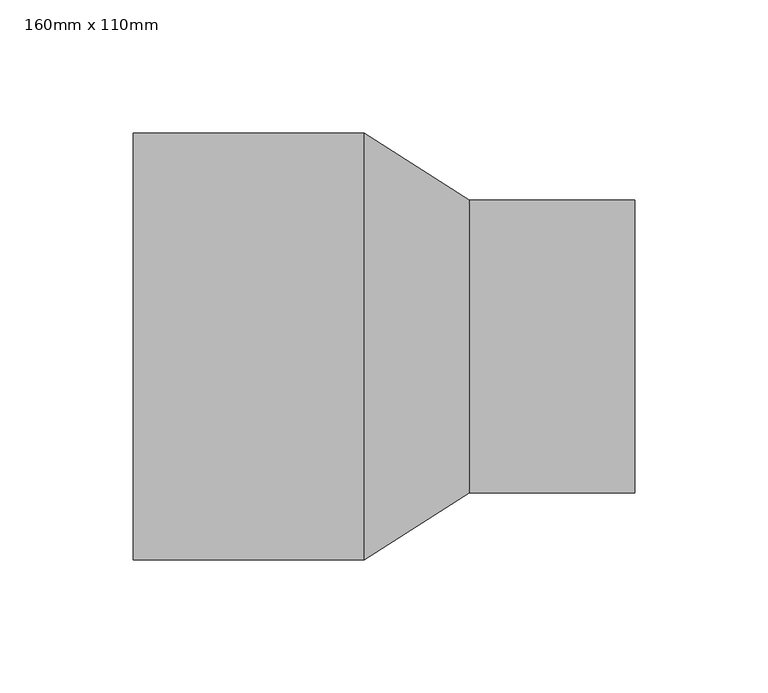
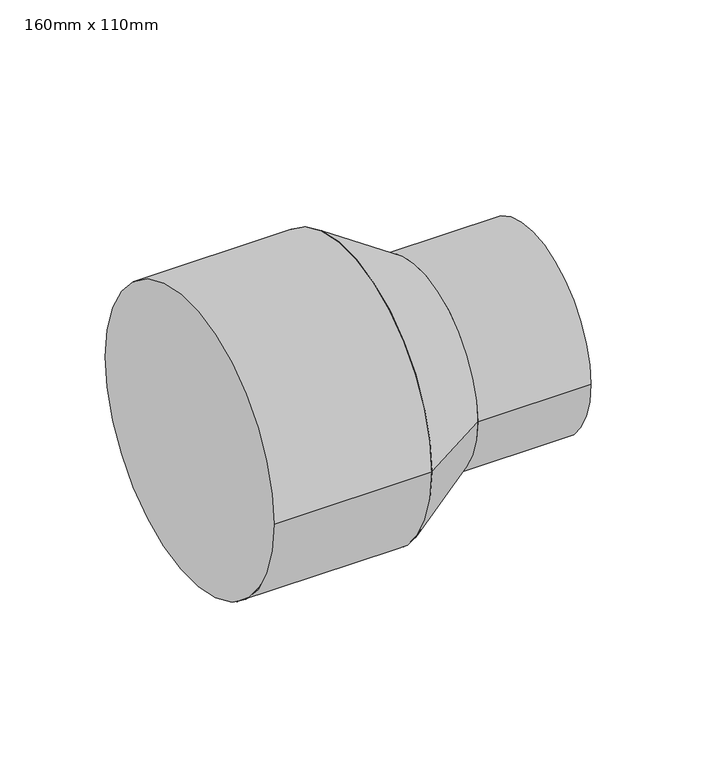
"""IFC4 building model written with IfcOpenShell, lengths in millimetres: pipe fitting geometry, PipeFitting_HTA_CPVC_ReducingBushesLongPattern : 160mm x 110mm."""

import ifcopenshell
import ifcopenshell.guid

model = None  # the IFC model being written
_history = None  # IfcOwnerHistory: only IFC2X3 demands one
_inside = {}  # id of a spatial element -> (the spatial element, [elements in it])
_under = {}  # id of a project, library or spatial element -> (it, [spatial elements below it])
_declared = {}  # id of a project -> (the project, [libraries it declares])
_typed = {}  # id of a type object -> (the type object, [elements of that type])
_made_of = {}  # id of a material, layer set ... -> (it, [elements and type objects made of it])


def new_model(schema):
    """Start an empty IFC model of exactly this schema.

    Asked for "IFC4X3", IfcOpenShell would pick the latest addendum, in which some entities
    have other attributes; the version numbers below select the first issue.
    IFC2X3 requires an IfcOwnerHistory on every rooted entity: one is made here for all.
    """
    global model, _history
    if schema == "IFC4X3":
        model = ifcopenshell.file(schema_version=(4, 3, 0, 0))
    else:
        model = ifcopenshell.file(schema=schema)
    _inside.clear()
    _under.clear()
    _declared.clear()
    _typed.clear()
    _made_of.clear()
    _history = None
    if model.schema == "IFC2X3":
        org = make("IfcOrganization", Name="unknown")
        user = make(
            "IfcPersonAndOrganization",
            ThePerson=make("IfcPerson", FamilyName="unknown"),
            TheOrganization=org,
        )
        app = make(
            "IfcApplication",
            ApplicationDeveloper=org,
            Version="unknown",
            ApplicationFullName="unknown",
            ApplicationIdentifier="unknown",
        )
        _history = make(
            "IfcOwnerHistory",
            OwningUser=user,
            OwningApplication=app,
            ChangeAction="ADDED",
            CreationDate=0,
        )
    return model


def make(cls, **values):
    """One entity of the class cls with the attributes given. An attribute that is None is left unset."""
    return model.create_entity(
        cls, **{name: value for name, value in values.items() if value is not None}
    )


def rooted(cls, **values):
    """An entity with a GlobalId (a new one), such as an element, a storey or a relation."""
    return make(cls, GlobalId=ifcopenshell.guid.new(), OwnerHistory=_history, **values)


def si_unit(unit_type, name, prefix=None):
    """IfcSIUnit, for example si_unit("LENGTHUNIT", "METRE", prefix="MILLI")."""
    return make("IfcSIUnit", UnitType=unit_type, Prefix=prefix, Name=name)


def assignment(units):
    """IfcUnitAssignment: the units of a project."""
    return None if units is None else make("IfcUnitAssignment", Units=units)


def point(xyz):
    """IfcCartesianPoint."""
    return None if xyz is None else make("IfcCartesianPoint", Coordinates=xyz)


def direction(xyz):
    """IfcDirection."""
    return None if xyz is None else make("IfcDirection", DirectionRatios=xyz)


def frame(location, z_axis=None, x_axis=None):
    """IfcAxis2Placement3D, a coordinate frame: its origin and axes. An axis left out is left unset."""
    return make(
        "IfcAxis2Placement3D",
        Location=point(location),
        Axis=direction(z_axis),
        RefDirection=direction(x_axis),
    )


def frame_2d(location, x_axis=None):
    """IfcAxis2Placement2D, a coordinate frame in the plane: its origin and x axis."""
    return make(
        "IfcAxis2Placement2D", Location=point(location), RefDirection=direction(x_axis)
    )


def origin():
    """The frame at (0, 0, 0) with its axes left unset."""
    return frame((0.0, 0.0, 0.0))


def origin_2d():
    """The frame at (0, 0) in the plane with its x axis left unset."""
    return frame_2d((0.0, 0.0))


def place(relative_to, where):
    """IfcLocalPlacement: puts the frame where relative to a parent placement (None: the world)."""
    return make(
        "IfcLocalPlacement", PlacementRelTo=relative_to, RelativePlacement=where
    )


def context(
    kind, dimensions, precision=None, world=None, true_north=None, identifier=None
):
    """IfcGeometricRepresentationContext, for example the 3D "Model" context."""
    return make(
        "IfcGeometricRepresentationContext",
        ContextIdentifier=identifier,
        ContextType=kind,
        CoordinateSpaceDimension=dimensions,
        Precision=precision,
        WorldCoordinateSystem=world,
        TrueNorth=true_north,
    )


def project(units=None, contexts=None):
    """IfcProject with its units and contexts."""
    return rooted(
        "IfcProject",
        Name="project",
        RepresentationContexts=contexts,
        UnitsInContext=assignment(units),
    )


def spatial(cls, under=None, at=None, **own):
    """A site, building, storey or space (cls), placed at a placement, below another one or the project."""
    s = rooted(cls, ObjectPlacement=at, **own)
    if under is not None:
        _under.setdefault(under.id(), (under, []))[1].append(s)
    return s


def polyline(points):
    """IfcPolyline through the points."""
    return make("IfcPolyline", Points=[point(p) for p in points])


def circle_curve(where, radius):
    """IfcCircle in the frame where."""
    return make("IfcCircle", Position=where, Radius=radius)


def trimmed(basis, trim1, trim2, sense, master):
    """IfcTrimmedCurve: the piece of a basis curve between two trims."""
    return make(
        "IfcTrimmedCurve",
        BasisCurve=basis,
        Trim1=trim1,
        Trim2=trim2,
        SenseAgreement=sense,
        MasterRepresentation=master,
    )


def segment(curve, same_sense, transition):
    """IfcCompositeCurveSegment."""
    return make(
        "IfcCompositeCurveSegment",
        Transition=transition,
        SameSense=same_sense,
        ParentCurve=curve,
    )


def composite_curve(segments, self_intersect=None):
    """IfcCompositeCurve: segments joined end to end."""
    return make("IfcCompositeCurve", Segments=segments, SelfIntersect=self_intersect)


def outline(outer, holes=None, kind="AREA"):
    """IfcArbitraryClosedProfileDef: a profile drawn as a closed curve; with holes, ...WithVoids."""
    if holes is None:
        return make("IfcArbitraryClosedProfileDef", ProfileType=kind, OuterCurve=outer)
    return make(
        "IfcArbitraryProfileDefWithVoids",
        ProfileType=kind,
        OuterCurve=outer,
        InnerCurves=holes,
    )


def extrude(swept, where, along, depth):
    """IfcExtrudedAreaSolid: the profile swept, set in the frame where, extruded along a direction by depth."""
    return make(
        "IfcExtrudedAreaSolid",
        SweptArea=swept,
        Position=where,
        ExtrudedDirection=direction(along),
        Depth=depth,
    )


def shape(context_of_items, identifier, shape_type, items):
    """IfcShapeRepresentation: the items that make up one representation, for example the "Body"."""
    return make(
        "IfcShapeRepresentation",
        ContextOfItems=context_of_items,
        RepresentationIdentifier=identifier,
        RepresentationType=shape_type,
        Items=items,
    )


def source(mapping_origin, context_of_items, identifier, shape_type, items):
    """IfcRepresentationMap: a shape defined once, which mapped items show again and again."""
    return make(
        "IfcRepresentationMap",
        MappingOrigin=mapping_origin,
        MappedRepresentation=shape(context_of_items, identifier, shape_type, items),
    )


def transform(
    local_origin,
    x_axis=None,
    y_axis=None,
    z_axis=None,
    scale=None,
    scale2=None,
    scale3=None,
    uniform=True,
):
    """IfcCartesianTransformationOperator3D, or its non-uniform kind. x_axis, y_axis, z_axis: its Axis1, 2, 3."""
    if uniform:
        return make(
            "IfcCartesianTransformationOperator3D",
            Axis1=direction(x_axis),
            Axis2=direction(y_axis),
            LocalOrigin=point(local_origin),
            Scale=scale,
            Axis3=direction(z_axis),
        )
    return make(
        "IfcCartesianTransformationOperator3DnonUniform",
        Axis1=direction(x_axis),
        Axis2=direction(y_axis),
        LocalOrigin=point(local_origin),
        Scale=scale,
        Axis3=direction(z_axis),
        Scale2=scale2,
        Scale3=scale3,
    )


def mapped(mapping_source, mapping_target):
    """IfcMappedItem: shows the shape of a source again, moved by a transform."""
    return make(
        "IfcMappedItem", MappingSource=mapping_source, MappingTarget=mapping_target
    )


def made_of(thing, what):
    """Note that an element or type object is made of a material, layer set ...; save() writes the relation."""
    if what is not None:
        _made_of.setdefault(what.id(), (what, []))[1].append(thing)
    return thing


def element(
    cls,
    number,
    at=None,
    inside=None,
    cuts=None,
    type_object=None,
    material=None,
    context=None,
    identifier="Body",
    shape_type=None,
    held_by="IfcProductDefinitionShape",
    body=None,
    shapes=None,
    **own,
):
    """One element of the class cls, such as IfcWall. Its Tag is "e" and its number.

    at: its placement. inside: the storey or other place that contains it. cuts: it is an
    opening in that element (IfcRelVoidsElement). A single representation is given by context,
    identifier, shape_type and body (its items); several are given by shapes. held_by: the class
    of the entity that holds the representations. save() writes the other relations.
    """
    e = rooted(cls, Tag="e%d" % number, ObjectPlacement=at, **own)
    if body is not None:
        shapes = [shape(context, identifier, shape_type, body)]
    if shapes is not None:
        e.Representation = make(held_by, Representations=shapes)
    if inside is not None:
        _inside.setdefault(inside.id(), (inside, []))[1].append(e)
    if cuts is not None:
        rooted(
            "IfcRelVoidsElement", RelatingBuildingElement=cuts, RelatedOpeningElement=e
        )
    if type_object is not None:
        _typed.setdefault(type_object.id(), (type_object, []))[1].append(e)
    return made_of(e, material)


def aggregate(whole, parts):
    """IfcRelAggregates: a whole, such as a stair, and the parts it consists of."""
    return rooted("IfcRelAggregates", RelatingObject=whole, RelatedObjects=parts)


def save(model, path):
    """Write the relations noted so far, then the file.

    IfcRelAggregates (storeys below a building ...), IfcRelContainedInSpatialStructure (elements
    in a storey), IfcRelDefinesByType, IfcRelAssociatesMaterial and IfcRelDeclares: one each for
    every whole, place, type object, material and project.
    """
    for whole, parts in _under.values():
        aggregate(whole, parts)
    for where, things in _inside.values():
        rooted(
            "IfcRelContainedInSpatialStructure",
            RelatedElements=things,
            RelatingStructure=where,
        )
    for kind, things in _typed.values():
        rooted("IfcRelDefinesByType", RelatedObjects=things, RelatingType=kind)
    for what, things in _made_of.values():
        rooted("IfcRelAssociatesMaterial", RelatedObjects=things, RelatingMaterial=what)
    for by, libraries in _declared.values():
        rooted("IfcRelDeclares", RelatingContext=by, RelatedDefinitions=libraries)
    model.write(path)


def plane_surface(at):
    """IfcPlane: the flat surface through the origin of the frame at, square to its z axis."""
    return make("IfcPlane", Position=at)


def revolved_surface(curve, axis_point, axis_direction):
    """IfcSurfaceOfRevolution: the curve turned about the line through axis_point along axis_direction."""
    return make(
        "IfcSurfaceOfRevolution",
        SweptCurve=make("IfcArbitraryOpenProfileDef", ProfileType="CURVE", Curve=curve),
        AxisPosition=make("IfcAxis1Placement", Location=point(axis_point), Axis=direction(axis_direction)),
    )


def advanced_brep(points, edges, surfaces, faces):
    """IfcAdvancedBrep: a solid bounded by faces that lie on surfaces and meet in shared edges.

    An edge is (start, end): straight between two places in points (the first is 0);
    or (start, end, curve); or (start, end, curve, False) where it runs against its curve.
    A face is (place in surfaces, loops), or (place, loops, False) where it looks against
    its surface's normal. A loop lists edges by number (the first is 1), with a minus sign
    where the edge is run from its end to its start. The first loop is the outer one.
    """
    corners = [point(p) for p in points]
    vertices = [make("IfcVertexPoint", VertexGeometry=c) for c in corners]
    made = []
    for start, end, *more in edges:
        made.append(
            make(
                "IfcEdgeCurve",
                EdgeStart=vertices[start],
                EdgeEnd=vertices[end],
                EdgeGeometry=more[0] if more else make("IfcPolyline", Points=[corners[start], corners[end]]),
                SameSense=more[1] if len(more) > 1 else True,
            )
        )
    hull = []
    for where, loops, *sense in faces:
        bounds = []
        for j, loop in enumerate(loops):
            ring = [make("IfcOrientedEdge", EdgeElement=made[abs(k) - 1], Orientation=k > 0) for k in loop]
            bounds.append(
                make(
                    "IfcFaceOuterBound" if j == 0 else "IfcFaceBound",
                    Bound=make("IfcEdgeLoop", EdgeList=ring),
                    Orientation=True,
                )
            )
        hull.append(make("IfcAdvancedFace", Bounds=bounds, FaceSurface=surfaces[where], SameSense=sense[0] if sense else True))
    return make("IfcAdvancedBrep", Outer=make("IfcClosedShell", CfsFaces=hull))


def pipe_fitting_160mm_x_110mm_28f24cb2(model_context):
    return source(origin(), model_context, "Body", "SolidModel", [
        advanced_brep(
        [(126.0, -55.0, 0.0), (126.0, 55.0, 0.0), (86.5, -80.0, 0.0), (86.5, 80.0, 0.0)],
        [
            (0, 1, circle_curve(frame((126.0, 0.0, 0.0), z_axis=(1.0, 0.0, 0.0), x_axis=(0.0, -1.0, 0.0)), 55.0)),
            (1, 0, circle_curve(frame((126.0, 0.0, 0.0), z_axis=(1.0, 0.0, 0.0), x_axis=(0.0, 1.0, 0.0)), 55.0)),
            (2, 3, circle_curve(frame((86.5, 0.0, 0.0), z_axis=(-1.0, 0.0, 0.0), x_axis=(0.0, 1.0, 0.0)), 80.0)),
            (3, 2, circle_curve(frame((86.5, 0.0, 0.0), z_axis=(-1.0, 0.0, 0.0), x_axis=(0.0, -1.0, 0.0)), 80.0)),
            (3, 1),
            (0, 2),
        ],
        [
            plane_surface(frame((126.0, 0.0, 0.0), z_axis=(1.0, 0.0, 0.0), x_axis=(0.0, 0.0, -1.0))),
            plane_surface(frame((86.5, 0.0, 0.0), z_axis=(-1.0, 0.0, 0.0), x_axis=(0.0, 0.0, -1.0))),
            revolved_surface(polyline([(126.0, -55.0, 0.0), (86.5, -80.0, 0.0)]), (212.9, 0.0, 0.0), (-1.0, 0.0, 0.0)),
            revolved_surface(polyline([(126.0, 55.0, 0.0), (86.5, 80.0, 0.0)]), (212.9, 0.0, 0.0), (-1.0, 0.0, 0.0)),
        ],
        [
            (0, [[1, 2]]),
            (1, [[3, 4]]),
            (2, [[-4, 5, -1, 6]]),
            (3, [[-3, -6, -2, -5]]),
        ],
    ),
        extrude(outline(composite_curve([segment(trimmed(circle_curve(origin_2d(), 55.0), [point((-55.0, 0.0))], [point((55.0, 0.0))], False, "CARTESIAN"), True, "CONTINUOUS"), segment(trimmed(circle_curve(origin_2d(), 55.0), [point((55.0, 0.0))], [point((-55.0, 0.0))], False, "CARTESIAN"), True, "CONTINUOUS")], self_intersect=False)), frame((126.0, 0.0, 0.0), z_axis=(1.0, 0.0, 0.0), x_axis=(0.0, 1.0, 0.0)), (0.0, 0.0, 1.0), 62.0),
        extrude(outline(composite_curve([segment(trimmed(circle_curve(origin_2d(), 80.0), [point((-80.0, 0.0))], [point((80.0, 0.0))], False, "CARTESIAN"), True, "CONTINUOUS"), segment(trimmed(circle_curve(origin_2d(), 80.0), [point((80.0, 0.0))], [point((-80.0, 0.0))], False, "CARTESIAN"), True, "CONTINUOUS")], self_intersect=False)), frame((0.0, 0.0, 0.0), z_axis=(1.0, 0.0, 0.0), x_axis=(0.0, 1.0, 0.0)), (0.0, 0.0, 1.0), 86.5),
    ])


if __name__ == "__main__":
    model = new_model("IFC4")
    model_context = context("Model", 3, world=origin())
    ifc_project = project(units=[si_unit("LENGTHUNIT", "METRE", prefix="MILLI")], contexts=[model_context])
    site = spatial("IfcSite", under=ifc_project)
    building = spatial("IfcBuilding", under=site)
    placement = place(None, origin())
    pipe_fitting_160mm_x_110mm_shape = pipe_fitting_160mm_x_110mm_28f24cb2(model_context)
    element("IfcPipeFitting", 1, ObjectType="PipeFitting_HTA_CPVC_ReducingBushesLongPattern : 160mm x 110mm", at=placement, inside=building, context=model_context, shape_type="MappedRepresentation", body=[
        mapped(pipe_fitting_160mm_x_110mm_shape, transform((0.0, 0.0, 0.0), x_axis=(1.0, 0.0, 0.0), y_axis=(0.0, 1.0, 0.0), z_axis=(0.0, 0.0, 1.0))),
    ])
    save(model, "model.ifc")
